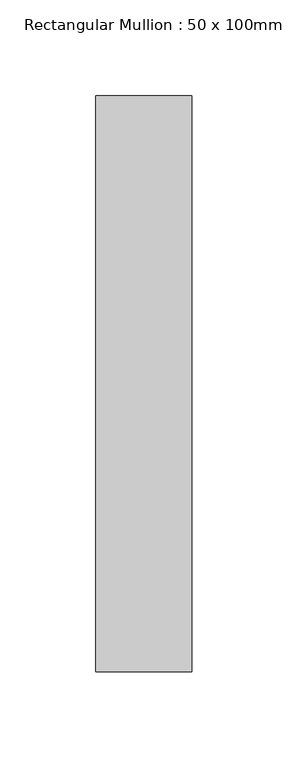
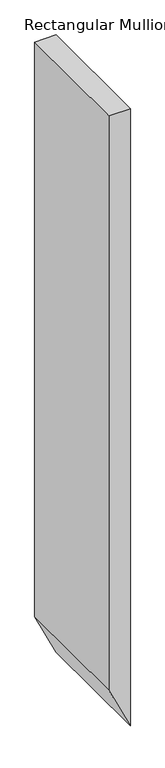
"""IFC4 building model written with IfcOpenShell, lengths in millimetres: member geometry, Rectangular Mullion : 50 x 100mm."""

from ifc_helpers import new_model, si_unit, frame, origin, place, context, project, spatial, polyline, outline, extrude, source, transform, mapped, element, save


def rectangular_mullion_50_x_100mm_699c379f(model_context):
    return source(origin(), model_context, "Body", "SweptSolid", [
        extrude(outline(polyline([(0.0, 0.0), (0.0, -50.0), (-1417.9086204, -50.0), (-1523.5, 0.0), (0.0, 0.0)])), frame((0.0, -125.0, 0.0), z_axis=(0.0, 1.0, 0.0), x_axis=(0.0, 0.0, 1.0)), (0.0, 0.0, 1.0), 300.0),
    ])


if __name__ == "__main__":
    model = new_model("IFC4")
    model_context = context("Model", 3, world=origin())
    ifc_project = project(units=[si_unit("LENGTHUNIT", "METRE", prefix="MILLI")], contexts=[model_context])
    site = spatial("IfcSite", under=ifc_project)
    building = spatial("IfcBuilding", under=site)
    placement = place(None, origin())
    rectangular_mullion_50_x_100mm_shape = rectangular_mullion_50_x_100mm_699c379f(model_context)
    element("IfcMember", 1, ObjectType="Rectangular Mullion : 50 x 100mm", at=placement, inside=building, context=model_context, shape_type="MappedRepresentation", body=[
        mapped(rectangular_mullion_50_x_100mm_shape, transform((0.0, 0.0, 0.0), x_axis=(1.0, 0.0, 0.0), y_axis=(0.0, 1.0, 0.0), z_axis=(0.0, 0.0, 1.0))),
    ])
    save(model, "model.ifc")
